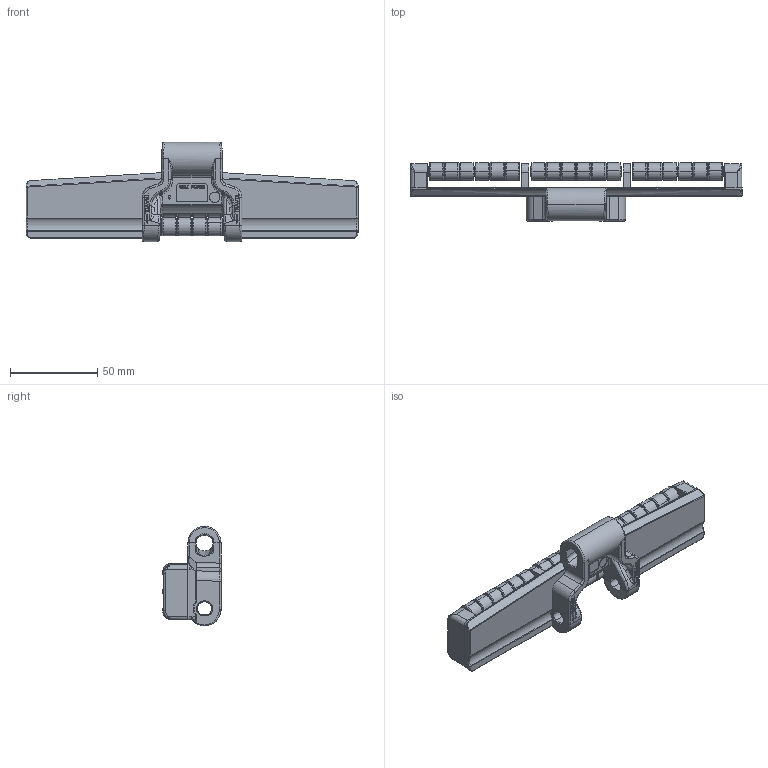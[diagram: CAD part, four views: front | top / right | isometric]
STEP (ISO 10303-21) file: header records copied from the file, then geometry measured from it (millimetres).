
FILE_DESCRIPTION (( 'STEP AP214' ), '1' );
FILE_NAME ('LF882MBP075.2.STEP', '2023-07-27T13:29:00', ( '' ), ( '' ), 'SwSTEP 2.0', 'SolidWorks 2022', '' );
FILE_SCHEMA (( 'AUTOMOTIVE_DESIGN' ));
Length unit declared in the file: millimetre
Products named in the file (4): LF882MBP075.2; LF882MBP075.SR_882M1000; CIERRE.8257BPLF; BPM8257.2
Assembly tree (56 placements, depth 2):
  LF882MBP075.2
    LF882MBP075.SR_882M1000
    BPM8257.2  x54
    CIERRE.8257BPLF
Bounding box: 190.5 x 33.75 x 57 mm (x, y, z)
Volume: 82144 mm3; surface area: 53159.3 mm2
Topology: 56 solids, 56 shells, 1825 faces, 4116 edges, 2508 vertices
Faces by surface type: cylinder 608, plane 531, torus 436, bspline 218, cone 20, sphere 12
Entity records: 34026 total; most frequent: CARTESIAN_POINT 16911, ORIENTED_EDGE 3932, DIRECTION 2793, EDGE_CURVE 1966, VERTEX_POINT 1236, VECTOR 1095, LINE 1095, AXIS2_PLACEMENT_3D 849
